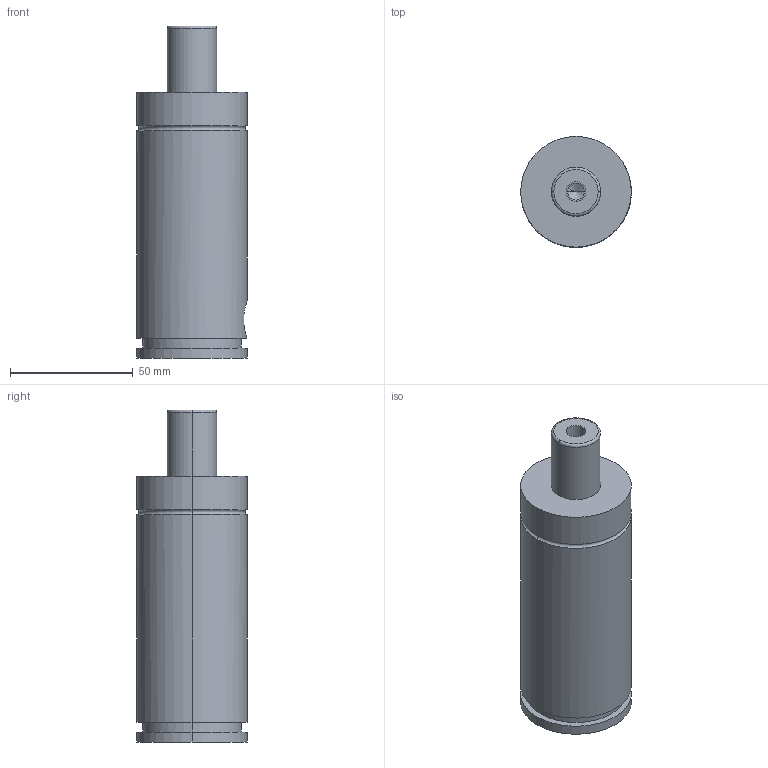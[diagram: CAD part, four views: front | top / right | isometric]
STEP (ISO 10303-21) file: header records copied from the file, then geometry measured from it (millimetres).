
FILE_DESCRIPTION(/* description */ (''),/* implementation_level */ '2;1');
FILE_NAME(/* name */ '3d_gse45-25_03886_r00.stp',/* time_stamp */ '2011-01-10T14:15:19+09:00',/* author */ ('MISUMI'),/* organization */ (''),/* preprocessor_version */ 'ST-DEVELOPER v11',/* originating_system */ 'UGS - NX 5.0',/* authorisation */ '');
FILE_SCHEMA (('CONFIG_CONTROL_DESIGN'));
Length unit declared in the file: millimetre
Products named in the file (1): 3d_gse45-25_03886_r00
Bounding box: 45 x 45 x 135 mm (x, y, z)
Volume: 176054.2 mm3; surface area: 22241.8 mm2
Topology: 1 solids, 1 shells, 57 faces, 122 edges, 77 vertices
Faces by surface type: cylinder 26, plane 21, cone 6, torus 4
Entity records: 1648 total; most frequent: DIRECTION 296, CARTESIAN_POINT 279, ORIENTED_EDGE 240, AXIS2_PLACEMENT_3D 122, EDGE_CURVE 120, VERTEX_POINT 77, EDGE_LOOP 69, CIRCLE 64
